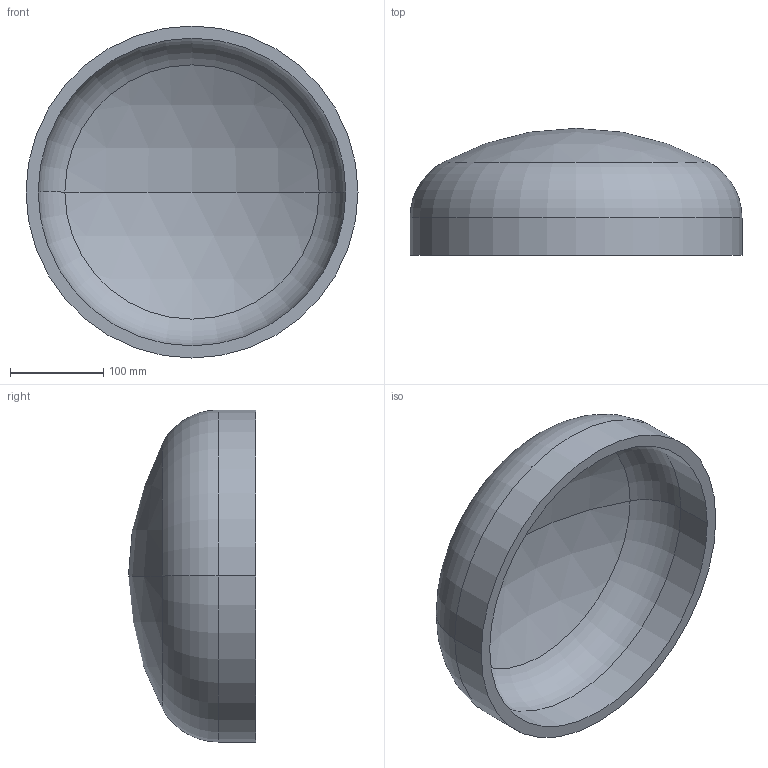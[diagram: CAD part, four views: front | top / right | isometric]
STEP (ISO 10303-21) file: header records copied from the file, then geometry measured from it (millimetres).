
FILE_DESCRIPTION (( 'STEP AP203' ), '1' );
FILE_NAME ('DIN 28013 Korbbogenform_-_Boden DIN 28013 - 355,6 x 40 - I - s=13.step', '2016-07-01T07:46:28', ( '' ), ( '' ), 'SwSTEP 2.0', 'SolidWorks 2013', '' );
FILE_SCHEMA (( 'CONFIG_CONTROL_DESIGN' ));
Length unit declared in the file: millimetre
Products named in the file (1): DIN 28013 Korbbogenform_-_Boden DIN 28013 - 355,6 x 40 - I - s=13
Bounding box: 355.6 x 136.04 x 355.6 mm (x, y, z)
Volume: 2266556.9 mm3; surface area: 363047 mm2
Topology: 1 solids, 1 shells, 13 faces, 24 edges, 14 vertices
Faces by surface type: torus 4, cylinder 4, sphere 4, plane 1
Entity records: 407 total; most frequent: DIRECTION 72, CARTESIAN_POINT 52, ORIENTED_EDGE 48, AXIS2_PLACEMENT_3D 34, EDGE_CURVE 24, CIRCLE 20, EDGE_LOOP 14, VERTEX_POINT 14
